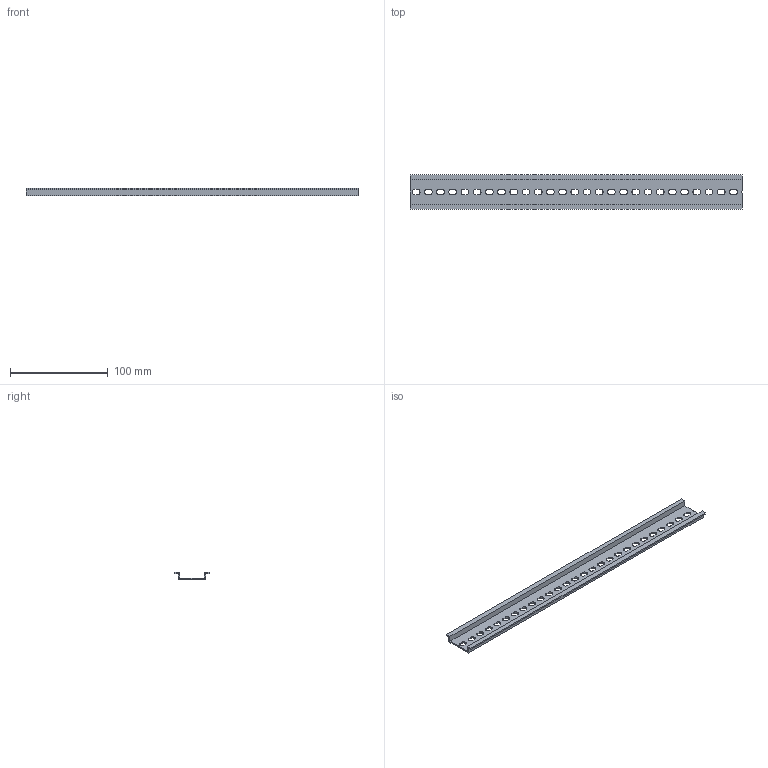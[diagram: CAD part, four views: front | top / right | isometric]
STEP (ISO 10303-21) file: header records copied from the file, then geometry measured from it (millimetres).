
FILE_DESCRIPTION(/* description */ ('購入品'),/* implementation_level */ '2;1');
FILE_NAME(/* name */ 'C:\Users\Fujimoto-s\OneDrive\Inventor\WorkSpace\\X2\305D306E4ED6\X0\\ホームページ用\\X2\30C030A630F330ED30FC30C97D206750\X0\\電装品\DIN40\DIN40.stp',/* time_stamp */ '2024-08-10T13:55:34+09:00',/* author */ ('Fujimoto-s'),/* organization */ (''),/* preprocessor_version */ 'ST-DEVELOPER v15.2',/* originating_system */ 'Autodesk Inventor 2014',/* authorisation */ '');
FILE_SCHEMA (('AUTOMOTIVE_DESIGN { 1 0 10303 214 3 1 1 }'));
Length unit declared in the file: millimetre
Products named in the file (1): DIN40
Bounding box: 340 x 35 x 7.5 mm (x, y, z)
Volume: 22450.3 mm3; surface area: 31997.2 mm2
Topology: 1 solids, 1 shells, 124 faces, 366 edges, 244 vertices
Faces by surface type: plane 69, cylinder 55
Entity records: 4292 total; most frequent: CARTESIAN_POINT 735, ORIENTED_EDGE 732, DIRECTION 726, EDGE_CURVE 366, LINE 256, VECTOR 256, VERTEX_POINT 244, AXIS2_PLACEMENT_3D 235
